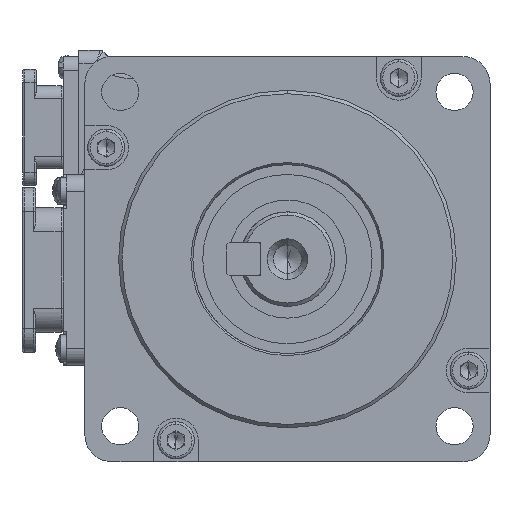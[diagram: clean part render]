
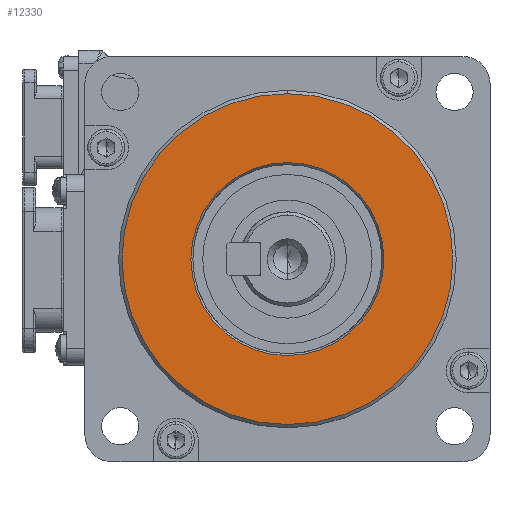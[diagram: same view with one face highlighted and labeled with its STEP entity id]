
A CAD part, left-side view. The second image highlights one B-rep face of the part: STEP entity #12330.
In plain terms, the highlighted planar face has unit normal (-1, 0, 0).
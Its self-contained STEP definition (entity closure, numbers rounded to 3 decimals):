
#1307 = CIRCLE ( 'NONE', #59748, 14.289 ) ;
#2942 = DIRECTION ( 'NONE',  ( -1., 0., 0. ) ) ;
#3708 = DIRECTION ( 'NONE',  ( 0., 1., 0. ) ) ;
#7736 = FACE_BOUND ( 'NONE', #47497, .T. ) ;
#9407 = DIRECTION ( 'NONE',  ( 0., 0., -1. ) ) ;
#11700 = AXIS2_PLACEMENT_3D ( 'NONE', #68910, #61923, #3708 ) ;
#12330 = ADVANCED_FACE ( 'NONE', ( #43118, #7736 ), #53977, .F. ) ;
#14401 = CARTESIAN_POINT ( 'NONE',  ( -139.508, -10.485, -0.485 ) ) ;
#17198 = CARTESIAN_POINT ( 'NONE',  ( -139.508, -10.485, -14.774 ) ) ;
#18086 = ORIENTED_EDGE ( 'NONE', *, *, #67472, .T. ) ;
#20159 = VERTEX_POINT ( 'NONE', #17198 ) ;
#22091 = DIRECTION ( 'NONE',  ( 0., 0., -1. ) ) ;
#27731 = CARTESIAN_POINT ( 'NONE',  ( -139.508, -10.485, 13.804 ) ) ;
#28092 = ORIENTED_EDGE ( 'NONE', *, *, #54979, .T. ) ;
#30403 = EDGE_LOOP ( 'NONE', ( #70538, #18086 ) ) ;
#32303 = CARTESIAN_POINT ( 'NONE',  ( -139.508, -10.485, -0.485 ) ) ;
#34949 = AXIS2_PLACEMENT_3D ( 'NONE', #53843, #2942, #69388 ) ;
#36214 = EDGE_CURVE ( 'NONE', #54991, #20159, #1307, .T. ) ;
#38054 = CIRCLE ( 'NONE', #51922, 24.5 ) ;
#42765 = DIRECTION ( 'NONE',  ( 0., 0., -1. ) ) ;
#43118 = FACE_OUTER_BOUND ( 'NONE', #30403, .T. ) ;
#43507 = CARTESIAN_POINT ( 'NONE',  ( -139.508, -10.485, -0.485 ) ) ;
#47497 = EDGE_LOOP ( 'NONE', ( #58602, #28092 ) ) ;
#51922 = AXIS2_PLACEMENT_3D ( 'NONE', #32303, #90118, #9407 ) ;
#53843 = CARTESIAN_POINT ( 'NONE',  ( -139.508, -10.485, -0.485 ) ) ;
#53977 = PLANE ( 'NONE',  #11700 ) ;
#54979 = EDGE_CURVE ( 'NONE', #20159, #54991, #64289, .T. ) ;
#54991 = VERTEX_POINT ( 'NONE', #27731 ) ;
#58168 = CARTESIAN_POINT ( 'NONE',  ( -139.508, -10.485, -24.985 ) ) ;
#58602 = ORIENTED_EDGE ( 'NONE', *, *, #36214, .T. ) ;
#59578 = VERTEX_POINT ( 'NONE', #92127 ) ;
#59748 = AXIS2_PLACEMENT_3D ( 'NONE', #43507, #94319, #22091 ) ;
#61923 = DIRECTION ( 'NONE',  ( 1., 0., 0. ) ) ;
#64289 = CIRCLE ( 'NONE', #81544, 14.289 ) ;
#66842 = EDGE_CURVE ( 'NONE', #81634, #59578, #38054, .T. ) ;
#67472 = EDGE_CURVE ( 'NONE', #59578, #81634, #67551, .T. ) ;
#67551 = CIRCLE ( 'NONE', #34949, 24.5 ) ;
#68910 = CARTESIAN_POINT ( 'NONE',  ( -139.508, -10.485, -0.485 ) ) ;
#69388 = DIRECTION ( 'NONE',  ( 0., 0., -1. ) ) ;
#70538 = ORIENTED_EDGE ( 'NONE', *, *, #66842, .T. ) ;
#81544 = AXIS2_PLACEMENT_3D ( 'NONE', #14401, #86866, #42765 ) ;
#81634 = VERTEX_POINT ( 'NONE', #58168 ) ;
#86866 = DIRECTION ( 'NONE',  ( 1., 0., 0. ) ) ;
#90118 = DIRECTION ( 'NONE',  ( -1., 0., 0. ) ) ;
#92127 = CARTESIAN_POINT ( 'NONE',  ( -139.508, -10.485, 24.015 ) ) ;
#94319 = DIRECTION ( 'NONE',  ( 1., 0., 0. ) ) ;
